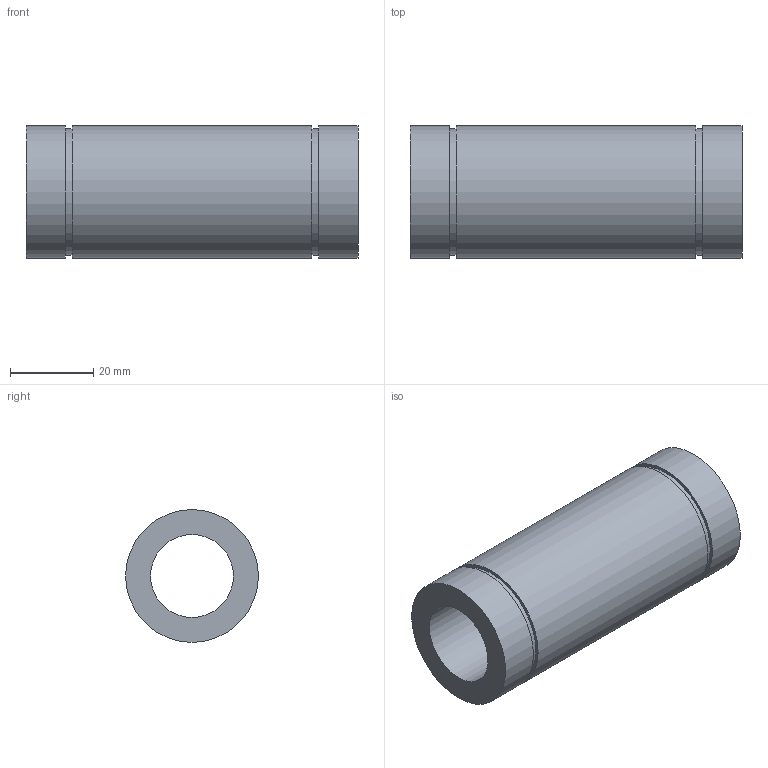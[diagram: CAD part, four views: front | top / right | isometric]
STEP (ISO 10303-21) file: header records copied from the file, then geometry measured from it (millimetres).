
FILE_DESCRIPTION(/* description */ ('Unknown'),/* implementation_level */ '2;1');
FILE_NAME(/* name */ 'LM20LUU',/* time_stamp */ '2025-02-03T15:00:30+08:00',/* author */ ('Unknown'),/* organization */ ('Unknown'),/* preprocessor_version */ 'ST-DEVELOPER v18.102',/* originating_system */ 'Solid Edge',/* authorisation */ 'Unknown');
FILE_SCHEMA (('AUTOMOTIVE_DESIGN {1 0 10303 214 3 1 1}'));
Length unit declared in the file: millimetre
Products named in the file (1): LM20LUU
Bounding box: 80 x 32 x 32 mm (x, y, z)
Volume: 38971.5 mm3; surface area: 14328.6 mm2
Topology: 1 solids, 1 shells, 12 faces, 20 edges, 14 vertices
Faces by surface type: cylinder 6, plane 6
Full cylindrical faces by diameter (mm): 20 x1, 30.5 x2, 32 x3
Entity records: 278 total; most frequent: DIRECTION 50, CARTESIAN_POINT 37, AXIS2_PLACEMENT_3D 25, ORIENTED_EDGE 24, EDGE_LOOP 24, FACE_BOUND 24, EDGE_CURVE 12, VERTEX_POINT 12
